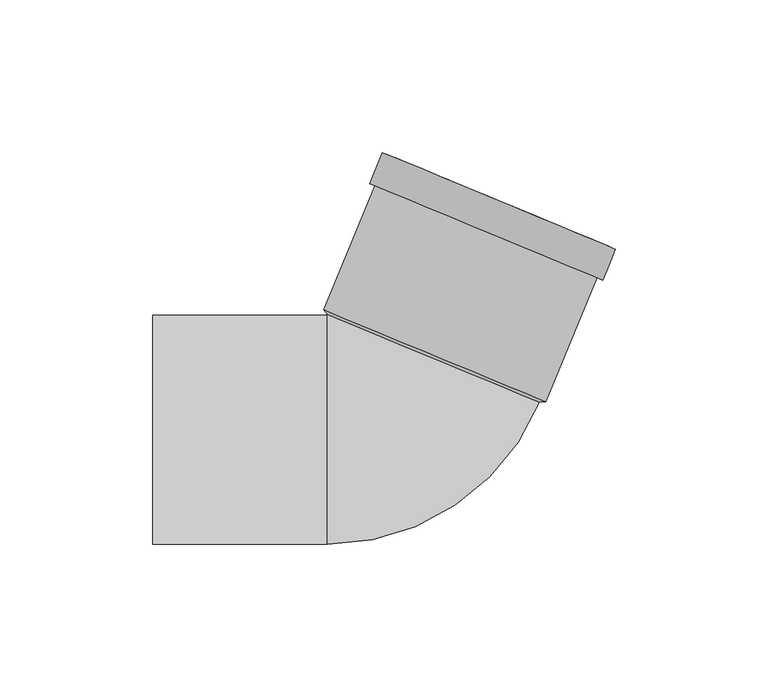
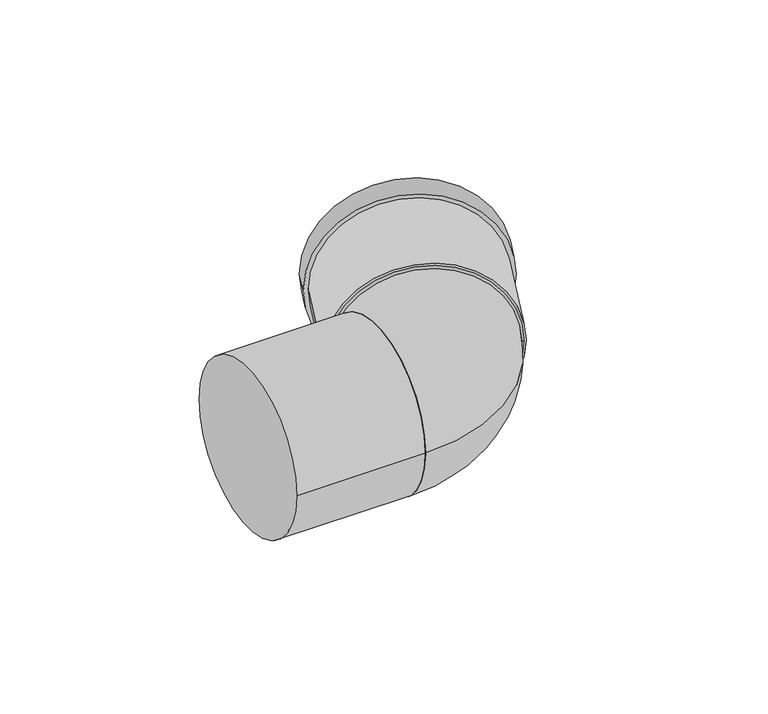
"""IFC4 building model written with IfcOpenShell, lengths in millimetres: pipe fitting geometry, Superdrain HT bend : Superdrain HT Bend."""

from ifc_helpers import new_model, si_unit, point, frame, origin, origin_2d, place, context, project, spatial, polyline, circle_curve, ellipse_curve, trimmed, segment, composite_curve, outline, extrude, source, transform, mapped, element, save
from ifc_brep_helpers import plane_surface, revolved_surface, advanced_brep


def pipe_fitting_66a794e8(model_context):
    return source(origin(), model_context, "Body", "SolidModel", [
        advanced_brep(
        [(44.289105, 8.9311355, 0.0), (-25.00186, 37.6323929, 0.0), (-25.2, -37.5, 0.0), (-25.2, 37.5, 0.0)],
        [
            (0, 1, circle_curve(frame((9.6436225, 23.2817642, 0.0), z_axis=(0.38268343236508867, 0.9238795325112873, 0.0), x_axis=(-0.9238795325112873, 0.38268343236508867, 0.0)), 37.5)),
            (1, 0, circle_curve(frame((9.6436225, 23.2817642, 0.0), z_axis=(0.3826834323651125, 0.9238795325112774, 0.0), x_axis=(-0.9238795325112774, 0.3826834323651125, 0.0)), 37.5)),
            (2, 3, circle_curve(frame((-25.2, 0.0, 0.0), z_axis=(-1.0, 0.0, 0.0), x_axis=(0.0, 1.0, 0.0)), 37.5)),
            (3, 2, circle_curve(frame((-25.2, 0.0, 0.0), z_axis=(-1.0, 0.0, 0.0), x_axis=(0.0, 1.0, 0.0)), 37.5)),
            (3, 1, circle_curve(frame((-25.2, 37.7144652, 0.0), z_axis=(0.0, 0.0, 1.0), x_axis=(1.0, 0.0, 0.0)), 0.2144652)),
            (0, 2, circle_curve(frame((-25.2, 37.7144652, 0.0), z_axis=(0.0, 0.0, -1.0), x_axis=(1.0, 0.0, 0.0)), 75.2144652)),
        ],
        [
            plane_surface(frame((9.6436225, 23.2817642, 0.0), z_axis=(0.3826834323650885, 0.9238795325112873, 0.0), x_axis=(0.0, 0.0, -1.0))),
            plane_surface(frame((-25.2, 0.0, 0.0), z_axis=(-1.0, 0.0, 0.0), x_axis=(0.0, 0.0, -1.0))),
            revolved_surface(trimmed(ellipse_curve(frame((12.5144652, 37.7144652, 0.0), z_axis=(0.0, -1.0, 0.0), x_axis=(-1.0, 0.0, 0.0)), 37.5, 37.5), [point((-24.9855348, 37.7144652, 0.0))], [point((50.0144652, 37.7144652, 0.0))], True, "CARTESIAN"), (-25.2, 37.7144652, 0.0), (0.0, 0.0, 1.0)),
            revolved_surface(trimmed(ellipse_curve(frame((12.5144652, 37.7144652, 0.0), z_axis=(0.0, -1.0, 0.0), x_axis=(-1.0, 0.0, 0.0)), 37.5, 37.5), [point((50.0144652, 37.7144652, 0.0))], [point((-24.9855348, 37.7144652, 0.0))], True, "CARTESIAN"), (-25.2, 37.7144652, 0.0), (0.0, 0.0, 1.0)),
        ],
        [
            (0, [[1, 2]]),
            (1, [[3, 4]]),
            (2, [[-4, 5, -1, 6]]),
            (3, [[-3, -6, -2, -5]]),
        ],
    ),
        extrude(outline(composite_curve([segment(trimmed(circle_curve(origin_2d(), 39.375), [point((0.0, 39.375))], [point((0.0, -39.375))], False, "CARTESIAN"), True, "CONTINUOUS"), segment(trimmed(circle_curve(origin_2d(), 39.375), [point((0.0, -39.375))], [point((0.0, 39.375))], False, "CARTESIAN"), True, "CONTINUOUS")], self_intersect=False), holes=[composite_curve([segment(trimmed(circle_curve(origin_2d(), 37.5), [point((0.0, 37.5000001))], [point((0.0, -37.4999999))], True, "CARTESIAN"), True, "CONTINUOUS"), segment(trimmed(circle_curve(origin_2d(), 37.5), [point((0.0, -37.4999999))], [point((0.0, 37.5000001))], True, "CARTESIAN"), True, "CONTINUOUS")], self_intersect=False)]), frame((10.0263059, 24.2056438, 0.0), z_axis=(0.3826834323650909, 0.9238795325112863, 0.0), x_axis=(0.0, 0.0, 1.0)), (0.0, 0.0, 1.0), 55.0),
        extrude(outline(composite_curve([segment(trimmed(circle_curve(origin_2d(), 41.34375), [point((0.0, -41.3437501))], [point((0.0, 41.34375))], False, "CARTESIAN"), True, "CONTINUOUS"), segment(trimmed(circle_curve(origin_2d(), 41.34375), [point((0.0, 41.34375))], [point((0.0, -41.3437501))], False, "CARTESIAN"), True, "CONTINUOUS")], self_intersect=False), holes=[composite_curve([segment(trimmed(circle_curve(origin_2d(), 37.5), [point((0.0, -37.5))], [point((0.0, 37.4999999))], True, "CARTESIAN"), True, "CONTINUOUS"), segment(trimmed(circle_curve(origin_2d(), 37.5), [point((0.0, 37.4999999))], [point((0.0, -37.5))], True, "CARTESIAN"), True, "CONTINUOUS")], self_intersect=False)]), frame((26.864377, 64.8563432, 0.0), z_axis=(0.3826834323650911, 0.9238795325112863, 0.0), x_axis=(0.0, 0.0, 1.0)), (0.0, 0.0, 1.0), 11.0),
        advanced_brep(
        [(46.4040625, 9.1374836, 0.0), (-26.3514507, 39.2738039, 0.0), (44.289105, 8.9311355, 0.0), (-25.00186, 37.6323929, 0.0)],
        [
            (0, 1, circle_curve(frame((10.0263059, 24.2056438, 0.0), z_axis=(0.3826834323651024, 0.9238795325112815, 0.0), x_axis=(0.9238795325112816, -0.3826834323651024, 0.0)), 39.375)),
            (1, 0, circle_curve(frame((10.0263059, 24.2056438, 0.0), z_axis=(0.3826834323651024, 0.9238795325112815, 0.0), x_axis=(-0.9238795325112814, 0.3826834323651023, 0.0)), 39.375)),
            (2, 3, circle_curve(frame((9.6436225, 23.2817642, 0.0), z_axis=(-0.3826834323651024, -0.9238795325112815, 0.0), x_axis=(-0.9238795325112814, 0.3826834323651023, 0.0)), 37.5)),
            (3, 2, circle_curve(frame((9.6436225, 23.2817642, 0.0), z_axis=(-0.3826834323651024, -0.9238795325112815, 0.0), x_axis=(0.9238795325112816, -0.3826834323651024, 0.0)), 37.5)),
            (3, 1),
            (0, 2),
        ],
        [
            plane_surface(frame((10.0263059, 24.2056438, 0.0), z_axis=(0.3826834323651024, 0.9238795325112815, 0.0), x_axis=(0.0, 0.0, -1.0))),
            plane_surface(frame((9.6436225, 23.2817642, 0.0), z_axis=(-0.3826834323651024, -0.9238795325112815, 0.0), x_axis=(0.0, 0.0, -1.0))),
            revolved_surface(polyline([(-25.001859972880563, 37.63239288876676, 0.0), (-26.35145076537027, 39.273803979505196, 0.0)]), (1.9899538, 4.8041736, 0.0), (0.3826834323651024, 0.9238795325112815, 0.0)),
            revolved_surface(polyline([(44.28910487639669, 8.93113549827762, 0.0), (46.40406259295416, 9.137483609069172, 0.0)]), (1.9899538, 4.8041736, 0.0), (0.3826834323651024, 0.9238795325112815, 0.0)),
        ],
        [
            (0, [[1, 2]]),
            (1, [[3, 4]]),
            (2, [[-4, 5, -1, 6]]),
            (3, [[-3, -6, -2, -5]]),
        ],
    ),
        extrude(outline(composite_curve([segment(trimmed(circle_curve(origin_2d(), 37.5), [point((-37.5, 0.0))], [point((37.5, 0.0))], False, "CARTESIAN"), True, "CONTINUOUS"), segment(trimmed(circle_curve(origin_2d(), 37.5), [point((37.5, 0.0))], [point((-37.5, 0.0))], False, "CARTESIAN"), True, "CONTINUOUS")], self_intersect=False)), frame((-82.5, 0.0, 0.0), z_axis=(1.0, 0.0, 0.0), x_axis=(0.0, 1.0, 0.0)), (0.0, 0.0, 1.0), 57.3),
    ])


if __name__ == "__main__":
    model = new_model("IFC4")
    model_context = context("Model", 3, world=origin())
    ifc_project = project(units=[si_unit("LENGTHUNIT", "METRE", prefix="MILLI")], contexts=[model_context])
    site = spatial("IfcSite", under=ifc_project)
    building = spatial("IfcBuilding", under=site)
    placement = place(None, origin())
    pipe_fitting_shape = pipe_fitting_66a794e8(model_context)
    element("IfcPipeFitting", 1, ObjectType="Superdrain HT bend : Superdrain HT Bend", at=placement, inside=building, context=model_context, shape_type="MappedRepresentation", body=[
        mapped(pipe_fitting_shape, transform((0.0, 0.0, 0.0), x_axis=(1.0, 0.0, 0.0), y_axis=(0.0, 1.0, 0.0), z_axis=(0.0, 0.0, 1.0))),
    ])
    save(model, "model.ifc")
